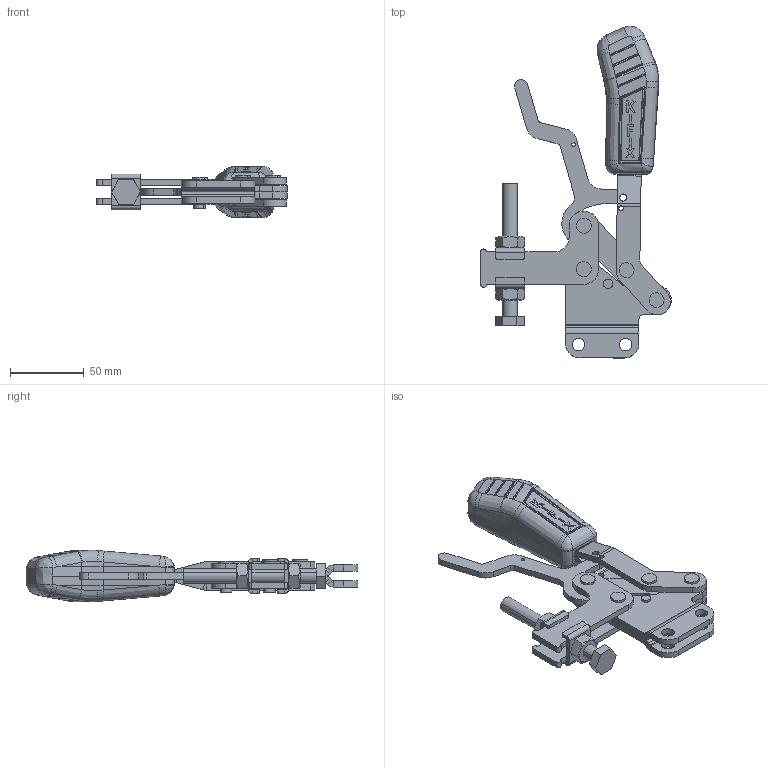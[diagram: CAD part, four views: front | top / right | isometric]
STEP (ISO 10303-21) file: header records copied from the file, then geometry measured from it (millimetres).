
FILE_DESCRIPTION (( 'STEP AP203' ), '1' );
FILE_NAME ('KF-631 R TR.STEP', '2018-11-29T18:04:34', ( 'Ricardo' ), ( '' ), 'SwSTEP 2.0', 'SolidWorks 2018', '' );
FILE_SCHEMA (( 'CONFIG_CONTROL_DESIGN' ));
Length unit declared in the file: millimetre
Products named in the file (14): 01.10217_Esquerda; 12.50021; 3670000086; 11.50003; 18.10048; 3670000087; 02.11034_Direita; KF-631 R TR; 01.10217_Direita; 02.11034_Esquerda; 03.13018; 08.10008; 07.60002; 14.10003
Assembly tree (20 placements, depth 2):
  KF-631 R TR
    02.11034_Direita
    02.11034_Esquerda
    03.13018  x2
    08.10008  x2
    07.60002
    14.10003  x2
    12.50021
    11.50003  x2
    3670000087
    01.10217_Direita
    01.10217_Esquerda
    3670000086  x4
    18.10048
Bounding box: 129.5 x 225.43 x 35.03 mm (x, y, z)
Volume: 185984.9 mm3; surface area: 80708.9 mm2
Topology: 20 solids, 20 shells, 759 faces, 1906 edges, 1197 vertices
Faces by surface type: plane 297, cylinder 228, bspline 159, sphere 52, cone 20, torus 3
Entity records: 25758 total; most frequent: CARTESIAN_POINT 9319, ORIENTED_EDGE 3344, DIRECTION 2693, EDGE_CURVE 1672, VERTEX_POINT 1053, AXIS2_PLACEMENT_3D 1012, EDGE_LOOP 739, LINE 669
